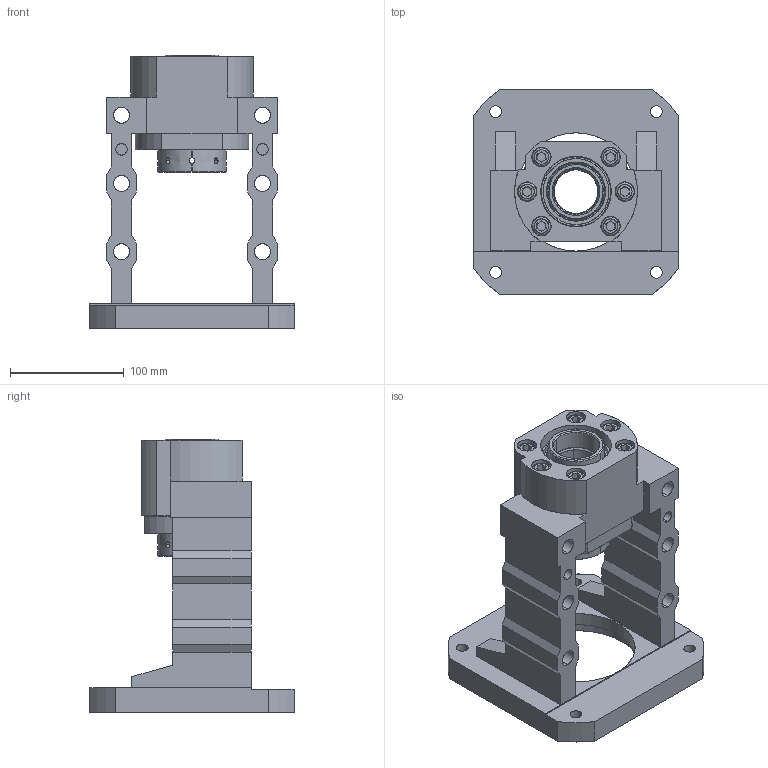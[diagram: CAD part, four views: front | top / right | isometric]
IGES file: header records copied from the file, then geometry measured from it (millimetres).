
Start section: SolidWorks IGES file using analytic representation for surfaces
Bounding box: 180 x 180 x 241 mm (x, y, z)
Surface area: 244697.3 mm2 (no closed solid volume)
Topology: 0 solids, 0 shells, 341 faces, 6052 edges, 6044 vertices
Faces by surface type: revolution 184, bspline 157
